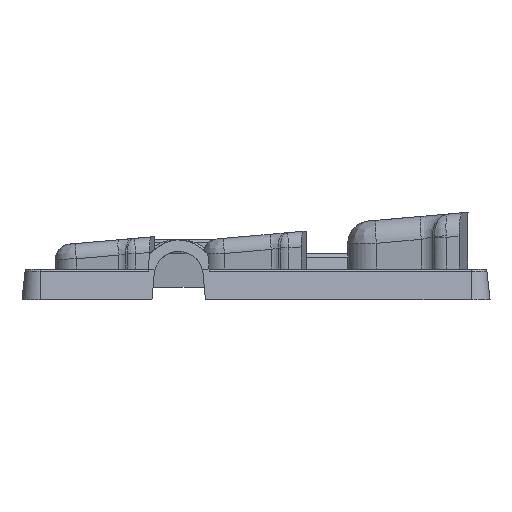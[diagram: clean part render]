
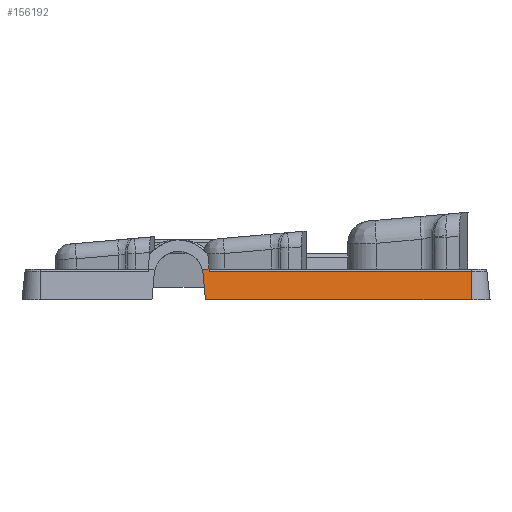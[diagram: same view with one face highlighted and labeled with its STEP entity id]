
A CAD part, left-side view. The second image highlights one B-rep face of the part: STEP entity #156192.
In plain terms, the highlighted planar face has unit normal (-0.995, 0, 0.104).
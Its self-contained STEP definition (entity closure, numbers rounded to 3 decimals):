
#16053=CARTESIAN_POINT('Line Origine',(-142.61,0.,2.131)) ;
#16057=CARTESIAN_POINT('Vertex',(-142.61,-28.043,2.131)) ;
#16059=CARTESIAN_POINT('Vertex',(-142.61,6.093,2.131)) ;
#16127=CARTESIAN_POINT('Vertex',(-142.582,6.117,2.4)) ;
#16131=CARTESIAN_POINT('Control Point',(-142.61,6.093,2.131)) ;
#16132=CARTESIAN_POINT('Control Point',(-142.582,6.117,2.4)) ;
#148463=CARTESIAN_POINT('Vertex',(-143.002,6.597,-1.6)) ;
#148466=CARTESIAN_POINT('Line Origine',(-142.825,6.745,0.09)) ;
#148470=CARTESIAN_POINT('Vertex',(-142.647,6.893,1.78)) ;
#148499=CARTESIAN_POINT('Control Point',(-142.582,7.01,2.4)) ;
#148500=CARTESIAN_POINT('Control Point',(-142.603,6.951,2.197)) ;
#148501=CARTESIAN_POINT('Control Point',(-142.625,6.912,1.99)) ;
#148502=CARTESIAN_POINT('Control Point',(-142.647,6.893,1.78)) ;
#148503=CARTESIAN_POINT('Vertex',(-142.582,7.01,2.4)) ;
#149300=CARTESIAN_POINT('Vertex',(-143.002,-28.043,-1.6)) ;
#149303=CARTESIAN_POINT('Line Origine',(-143.002,-10.723,-1.6)) ;
#155814=CARTESIAN_POINT('Control Point',(-143.002,-28.043,-1.6)) ;
#155815=CARTESIAN_POINT('Control Point',(-142.924,-28.043,-0.854)) ;
#155816=CARTESIAN_POINT('Control Point',(-142.846,-28.043,-0.108)) ;
#155817=CARTESIAN_POINT('Control Point',(-142.767,-28.043,0.639)) ;
#155818=CARTESIAN_POINT('Control Point',(-142.689,-28.043,1.385)) ;
#155819=CARTESIAN_POINT('Control Point',(-142.61,-28.043,2.131)) ;
#156059=CARTESIAN_POINT('Axis2P3D Location',(-143.002,-28.043,-1.6)) ;
#156167=CARTESIAN_POINT('Line Origine',(-142.582,0.,2.4)) ;
#16054=DIRECTION('Vector Direction',(0.,1.,0.)) ;
#148467=DIRECTION('Vector Direction',(0.104,0.087,0.991)) ;
#149304=DIRECTION('Vector Direction',(0.,1.,0.)) ;
#156060=DIRECTION('Axis2P3D Direction',(-0.995,0.,0.105)) ;
#156061=DIRECTION('Axis2P3D XDirection',(0.105,0.,0.995)) ;
#156168=DIRECTION('Vector Direction',(0.,-1.,0.)) ;
#156062=AXIS2_PLACEMENT_3D('Plane Axis2P3D',#156059,#156060,#156061) ;
#156184=ORIENTED_EDGE('',*,*,#149307,.F.) ;
#156185=ORIENTED_EDGE('',*,*,#155820,.F.) ;
#156186=ORIENTED_EDGE('',*,*,#16061,.T.) ;
#156187=ORIENTED_EDGE('',*,*,#16133,.F.) ;
#156188=ORIENTED_EDGE('',*,*,#156171,.F.) ;
#156189=ORIENTED_EDGE('',*,*,#148505,.T.) ;
#156190=ORIENTED_EDGE('',*,*,#148472,.F.) ;
#16055=VECTOR('Line Direction',#16054,1.) ;
#148468=VECTOR('Line Direction',#148467,1.) ;
#149305=VECTOR('Line Direction',#149304,1.) ;
#156169=VECTOR('Line Direction',#156168,1.) ;
#156192=ADVANCED_FACE('Florence-ZT25',(#156191),#156063,.T.) ;
#16130=B_SPLINE_CURVE_WITH_KNOTS('',1,(#16131,#16132),.UNSPECIFIED.,.F.,.U.,(2,2),(-0.136,0.136),.UNSPECIFIED.) ;
#148498=B_SPLINE_CURVE_WITH_KNOTS('',3,(#148499,#148500,#148501,#148502),.UNSPECIFIED.,.F.,.U.,(4,4),(0.,0.898),.UNSPECIFIED.) ;
#155813=B_SPLINE_CURVE_WITH_KNOTS('',5,(#155814,#155815,#155816,#155817,#155818,#155819),.UNSPECIFIED.,.F.,.U.,(6,6),(-2.011,1.741),.UNSPECIFIED.) ;
#16061=EDGE_CURVE('',#16058,#16060,#16056,.T.) ;
#16133=EDGE_CURVE('',#16128,#16060,#16130,.F.) ;
#148472=EDGE_CURVE('',#148464,#148471,#148469,.T.) ;
#148505=EDGE_CURVE('',#148504,#148471,#148498,.T.) ;
#149307=EDGE_CURVE('',#149301,#148464,#149306,.T.) ;
#155820=EDGE_CURVE('',#16058,#149301,#155813,.F.) ;
#156171=EDGE_CURVE('',#148504,#16128,#156170,.T.) ;
#156183=EDGE_LOOP('',(#156184,#156185,#156186,#156187,#156188,#156189,#156190)) ;
#156191=FACE_OUTER_BOUND('',#156183,.T.) ;
#16056=LINE('Line',#16053,#16055) ;
#148469=LINE('Line',#148466,#148468) ;
#149306=LINE('Line',#149303,#149305) ;
#156170=LINE('Line',#156167,#156169) ;
#156063=PLANE('',#156062) ;
#16058=VERTEX_POINT('',#16057) ;
#16060=VERTEX_POINT('',#16059) ;
#16128=VERTEX_POINT('',#16127) ;
#148464=VERTEX_POINT('',#148463) ;
#148471=VERTEX_POINT('',#148470) ;
#148504=VERTEX_POINT('',#148503) ;
#149301=VERTEX_POINT('',#149300) ;
